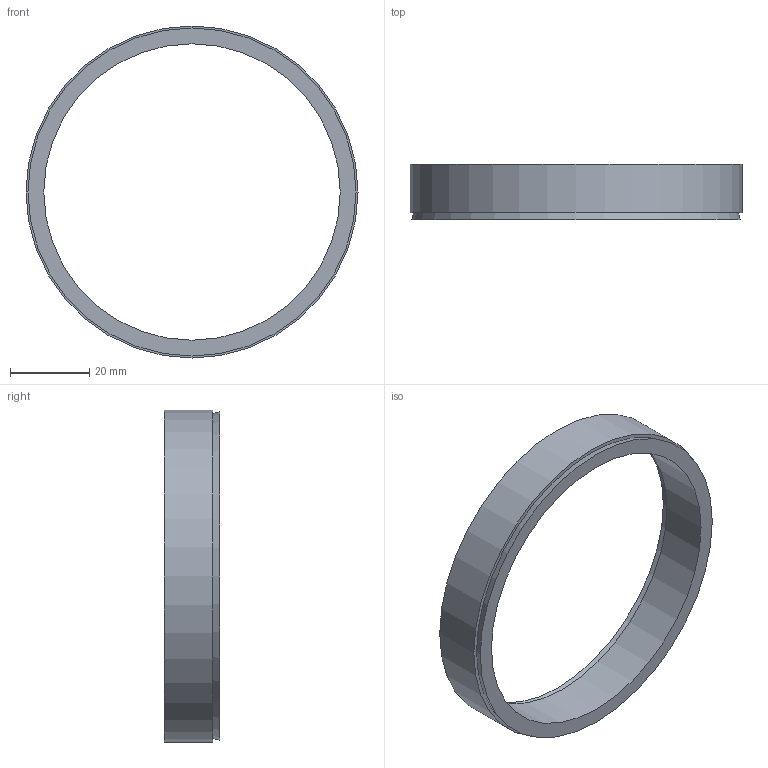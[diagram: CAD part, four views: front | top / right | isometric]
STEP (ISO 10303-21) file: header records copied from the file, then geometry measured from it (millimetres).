
FILE_DESCRIPTION( ( 'Unknown' ), '1' );
FILE_NAME( 'C:/Dokumente und Einstellungen/Sven/Desktop/homepage/cad - homepage/KBS50/KBS 50 - 75 x 84.stp', 'Unknown', ( 'Unknown' ), ( 'Unknown' ), 'XStep 1.0', 'Unknown', ' ' );
FILE_SCHEMA( ( 'automotive_design' ) );
Length unit declared in the file: millimetre
Products named in the file (1): 1
Bounding box: 84 x 14 x 84 mm (x, y, z)
Volume: 15082.8 mm3; surface area: 9493.4 mm2
Topology: 1 solids, 1 shells, 8 faces, 12 edges, 8 vertices
Faces by surface type: plane 4, cylinder 2, cone 2
Full cylindrical faces by diameter (mm): 75 x1, 84 x1
Entity records: 248 total; most frequent: DIRECTION 34, CARTESIAN_POINT 25, AXIS2_PLACEMENT_3D 17, EDGE_LOOP 16, ORIENTED_EDGE 16, FACE_OUTER_BOUND 10, STYLED_ITEM 8, PRESENTATION_STYLE_ASSIGNMENT 8
